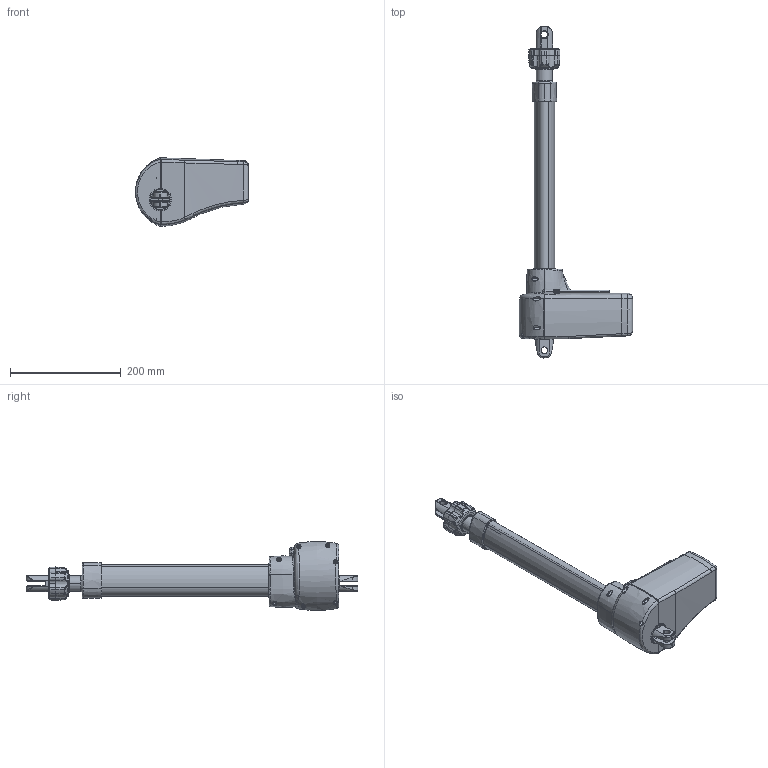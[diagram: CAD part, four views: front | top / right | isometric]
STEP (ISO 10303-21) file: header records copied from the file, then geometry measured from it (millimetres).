
FILE_DESCRIPTION((''),'2;1');
FILE_NAME('ASM0003_ASM','2022-08-16T',('USER'),(''),'PRO/ENGINEER BY PARAMETRIC TECHNOLOGY CORPORATION, 2008090','PRO/ENGINEER BY PARAMETRIC TECHNOLOGY CORPORATION, 2008090','');
FILE_SCHEMA(('CONFIG_CONTROL_DESIGN'));
Length unit declared in the file: millimetre
Products named in the file (3): PRT0001; PRT0002; ASM0003_ASM
Assembly tree (2 placements, depth 2):
  ASM0003_ASM
    PRT0001
    PRT0002
Bounding box: 204.32 x 599.75 x 124.09 mm (x, y, z)
Surface area: 574709.2 mm2 (no closed solid volume)
Topology: 0 solids, 15 shells, 2806 faces, 7677 edges, 4911 vertices
Faces by surface type: cylinder 904, plane 670, bspline 580, cone 262, torus 258, sphere 82, extrusion 50
Entity records: 137930 total; most frequent: CARTESIAN_POINT 71312, ORIENTED_EDGE 15149, DIRECTION 12271, EDGE_CURVE 7591, VERTEX_POINT 4907, AXIS2_PLACEMENT_3D 4819, EDGE_LOOP 2990, FACE_OUTER_BOUND 2805
